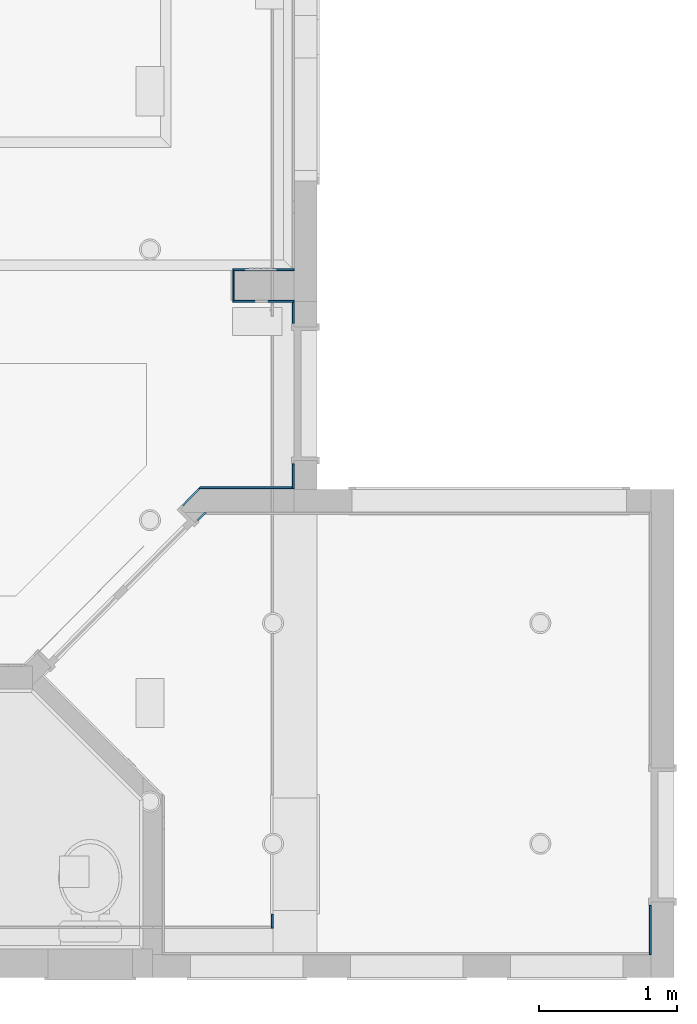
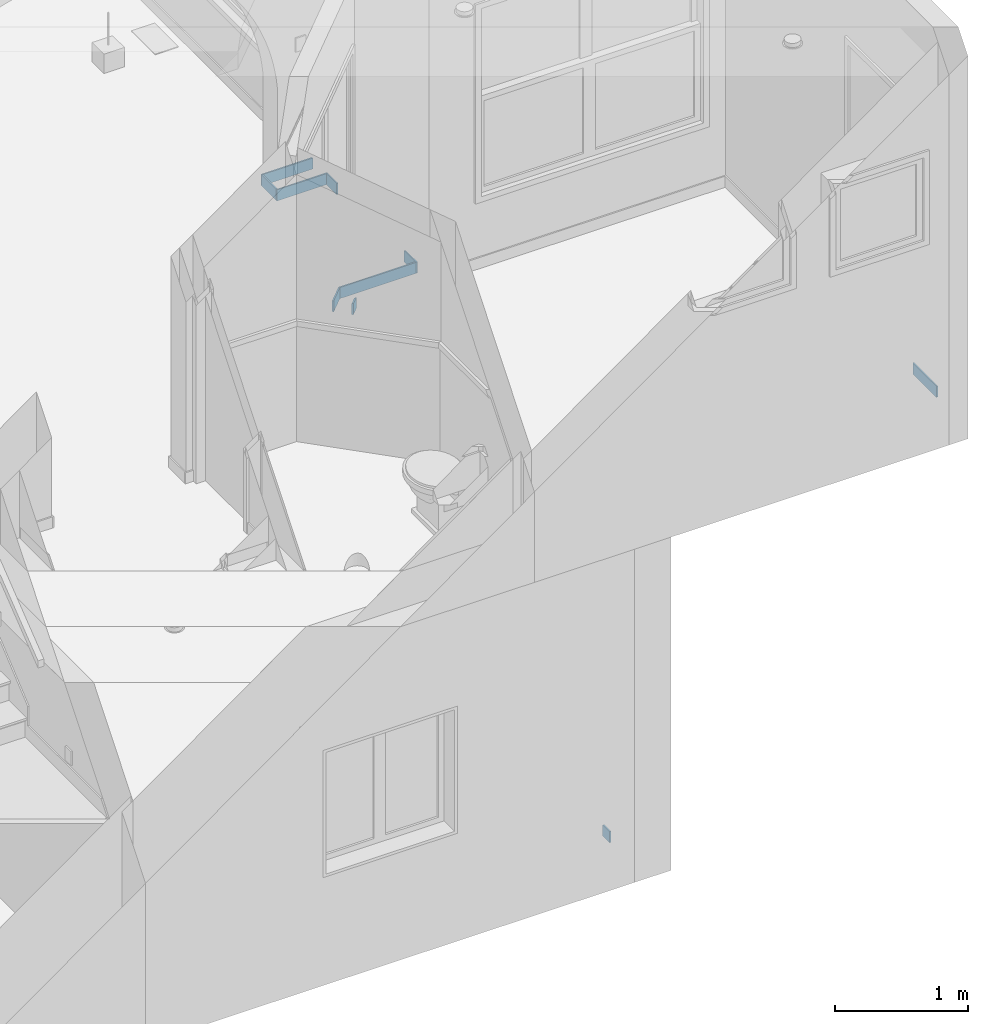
# One storey, part 27 of 60: 10 walls.
"""IFC2X3 building model written with IfcOpenShell, lengths in feet."""

import ifcopenshell
import ifcopenshell.guid

model = None  # the IFC model being written
_history = None  # IfcOwnerHistory: only IFC2X3 demands one
_inside = {}  # id of a spatial element -> (the spatial element, [elements in it])
_under = {}  # id of a project, library or spatial element -> (it, [spatial elements below it])
_declared = {}  # id of a project -> (the project, [libraries it declares])
_typed = {}  # id of a type object -> (the type object, [elements of that type])
_made_of = {}  # id of a material, layer set ... -> (it, [elements and type objects made of it])


def new_model(schema):
    """Start an empty IFC model of exactly this schema.

    Asked for "IFC4X3", IfcOpenShell would pick the latest addendum, in which some entities
    have other attributes; the version numbers below select the first issue.
    IFC2X3 requires an IfcOwnerHistory on every rooted entity: one is made here for all.
    """
    global model, _history
    if schema == "IFC4X3":
        model = ifcopenshell.file(schema_version=(4, 3, 0, 0))
    else:
        model = ifcopenshell.file(schema=schema)
    _inside.clear()
    _under.clear()
    _declared.clear()
    _typed.clear()
    _made_of.clear()
    _history = None
    if model.schema == "IFC2X3":
        org = make("IfcOrganization", Name="unknown")
        user = make(
            "IfcPersonAndOrganization",
            ThePerson=make("IfcPerson", FamilyName="unknown"),
            TheOrganization=org,
        )
        app = make(
            "IfcApplication",
            ApplicationDeveloper=org,
            Version="unknown",
            ApplicationFullName="unknown",
            ApplicationIdentifier="unknown",
        )
        _history = make(
            "IfcOwnerHistory",
            OwningUser=user,
            OwningApplication=app,
            ChangeAction="ADDED",
            CreationDate=0,
        )
    return model


def make(cls, **values):
    """One entity of the class cls with the attributes given. An attribute that is None is left unset."""
    return model.create_entity(
        cls, **{name: value for name, value in values.items() if value is not None}
    )


def entity(cls, *values):
    """Any entity or typed value of the class cls, its attributes in the order of the schema. None: left unset."""
    e = model.create_entity(cls)
    for i, value in enumerate(values):
        if value is not None:
            e[i] = value
    return e


def rooted(cls, **values):
    """An entity with a GlobalId (a new one), such as an element, a storey or a relation."""
    return make(cls, GlobalId=ifcopenshell.guid.new(), OwnerHistory=_history, **values)


def si_unit(unit_type, name, prefix=None):
    """IfcSIUnit, for example si_unit("LENGTHUNIT", "METRE", prefix="MILLI")."""
    return make("IfcSIUnit", UnitType=unit_type, Prefix=prefix, Name=name)


def converted_unit(unit_type, name, factor, base, dimensions=None, offset=None):
    """IfcConversionBasedUnit, such as the inch: factor (a typed value) times the base unit."""
    return make(
        "IfcConversionBasedUnit"
        if offset is None
        else "IfcConversionBasedUnitWithOffset",
        ConversionOffset=offset,
        Dimensions=None
        if dimensions is None
        else entity("IfcDimensionalExponents", *dimensions),
        UnitType=unit_type,
        Name=name,
        ConversionFactor=make(
            "IfcMeasureWithUnit", ValueComponent=factor, UnitComponent=base
        ),
    )


def assignment(units):
    """IfcUnitAssignment: the units of a project."""
    return None if units is None else make("IfcUnitAssignment", Units=units)


def point(xyz):
    """IfcCartesianPoint."""
    return None if xyz is None else make("IfcCartesianPoint", Coordinates=xyz)


def direction(xyz):
    """IfcDirection."""
    return None if xyz is None else make("IfcDirection", DirectionRatios=xyz)


def frame(location, z_axis=None, x_axis=None):
    """IfcAxis2Placement3D, a coordinate frame: its origin and axes. An axis left out is left unset."""
    return make(
        "IfcAxis2Placement3D",
        Location=point(location),
        Axis=direction(z_axis),
        RefDirection=direction(x_axis),
    )


def frame_2d(location, x_axis=None):
    """IfcAxis2Placement2D, a coordinate frame in the plane: its origin and x axis."""
    return make(
        "IfcAxis2Placement2D", Location=point(location), RefDirection=direction(x_axis)
    )


def origin():
    """The frame at (0, 0, 0) with its axes left unset."""
    return frame((0.0, 0.0, 0.0))


def place(relative_to, where):
    """IfcLocalPlacement: puts the frame where relative to a parent placement (None: the world)."""
    return make(
        "IfcLocalPlacement", PlacementRelTo=relative_to, RelativePlacement=where
    )


def context(
    kind, dimensions, precision=None, world=None, true_north=None, identifier=None
):
    """IfcGeometricRepresentationContext, for example the 3D "Model" context."""
    return make(
        "IfcGeometricRepresentationContext",
        ContextIdentifier=identifier,
        ContextType=kind,
        CoordinateSpaceDimension=dimensions,
        Precision=precision,
        WorldCoordinateSystem=world,
        TrueNorth=true_north,
    )


def subcontext(parent, identifier, kind, view, scale=None):
    """IfcGeometricRepresentationSubContext, for example "Body" below "Model"."""
    return make(
        "IfcGeometricRepresentationSubContext",
        ContextIdentifier=identifier,
        ContextType=kind,
        ParentContext=parent,
        TargetScale=scale,
        TargetView=view,
    )


def project(units=None, contexts=None):
    """IfcProject with its units and contexts."""
    return rooted(
        "IfcProject",
        Name="project",
        RepresentationContexts=contexts,
        UnitsInContext=assignment(units),
    )


def spatial(cls, under=None, at=None, **own):
    """A site, building, storey or space (cls), placed at a placement, below another one or the project."""
    s = rooted(cls, ObjectPlacement=at, **own)
    if under is not None:
        _under.setdefault(under.id(), (under, []))[1].append(s)
    return s


def polyline(points):
    """IfcPolyline through the points."""
    return make("IfcPolyline", Points=[point(p) for p in points])


def profile(cls, at=None, kind="AREA", **sizes):
    """A parametric profile (cls). Its sizes go by their IFC names, for example OverallWidth=200.0."""
    return make(cls, ProfileType=kind, Position=at, **sizes)


def rectangle(**sizes):
    """IfcRectangleProfileDef."""
    return profile("IfcRectangleProfileDef", **sizes)


def outline(outer, holes=None, kind="AREA"):
    """IfcArbitraryClosedProfileDef: a profile drawn as a closed curve; with holes, ...WithVoids."""
    if holes is None:
        return make("IfcArbitraryClosedProfileDef", ProfileType=kind, OuterCurve=outer)
    return make(
        "IfcArbitraryProfileDefWithVoids",
        ProfileType=kind,
        OuterCurve=outer,
        InnerCurves=holes,
    )


def extrude(swept, where, along, depth):
    """IfcExtrudedAreaSolid: the profile swept, set in the frame where, extruded along a direction by depth."""
    return make(
        "IfcExtrudedAreaSolid",
        SweptArea=swept,
        Position=where,
        ExtrudedDirection=direction(along),
        Depth=depth,
    )


def shape(context_of_items, identifier, shape_type, items):
    """IfcShapeRepresentation: the items that make up one representation, for example the "Body"."""
    return make(
        "IfcShapeRepresentation",
        ContextOfItems=context_of_items,
        RepresentationIdentifier=identifier,
        RepresentationType=shape_type,
        Items=items,
    )


def material(Name=None, Category=None):
    """IfcMaterial."""
    return make("IfcMaterial", Name=Name, Category=Category)


def layer(
    of_material, thickness, ventilated=None, Name=None, Category=None, Priority=None
):
    """IfcMaterialLayer: one layer of a wall or slab, of a material (None: an air gap)."""
    return make(
        "IfcMaterialLayer",
        Material=of_material,
        LayerThickness=thickness,
        IsVentilated=ventilated,
        Name=Name,
        Category=Category,
        Priority=Priority,
    )


def layer_set(layers, Name=None):
    """IfcMaterialLayerSet."""
    return make("IfcMaterialLayerSet", MaterialLayers=layers, LayerSetName=Name)


def layer_usage(for_layer_set, set_direction, sense, offset, extent=None):
    """IfcMaterialLayerSetUsage: how a layer set lies in its element."""
    return make(
        "IfcMaterialLayerSetUsage",
        ForLayerSet=for_layer_set,
        LayerSetDirection=set_direction,
        DirectionSense=sense,
        OffsetFromReferenceLine=offset,
        ReferenceExtent=extent,
    )


def made_of(thing, what):
    """Note that an element or type object is made of a material, layer set ...; save() writes the relation."""
    if what is not None:
        _made_of.setdefault(what.id(), (what, []))[1].append(thing)
    return thing


def type_object(cls, material=None, **own):
    """A type object (cls), such as IfcWallType, which elements share."""
    return made_of(rooted(cls, **own), material)


def element(
    cls,
    number,
    at=None,
    inside=None,
    cuts=None,
    type_object=None,
    material=None,
    context=None,
    identifier="Body",
    shape_type=None,
    held_by="IfcProductDefinitionShape",
    body=None,
    shapes=None,
    **own,
):
    """One element of the class cls, such as IfcWall. Its Tag is "e" and its number.

    at: its placement. inside: the storey or other place that contains it. cuts: it is an
    opening in that element (IfcRelVoidsElement). A single representation is given by context,
    identifier, shape_type and body (its items); several are given by shapes. held_by: the class
    of the entity that holds the representations. save() writes the other relations.
    """
    e = rooted(cls, Tag="e%d" % number, ObjectPlacement=at, **own)
    if body is not None:
        shapes = [shape(context, identifier, shape_type, body)]
    if shapes is not None:
        e.Representation = make(held_by, Representations=shapes)
    if inside is not None:
        _inside.setdefault(inside.id(), (inside, []))[1].append(e)
    if cuts is not None:
        rooted(
            "IfcRelVoidsElement", RelatingBuildingElement=cuts, RelatedOpeningElement=e
        )
    if type_object is not None:
        _typed.setdefault(type_object.id(), (type_object, []))[1].append(e)
    return made_of(e, material)


def aggregate(whole, parts):
    """IfcRelAggregates: a whole, such as a stair, and the parts it consists of."""
    return rooted("IfcRelAggregates", RelatingObject=whole, RelatedObjects=parts)


def save(model, path):
    """Write the relations noted so far, then the file.

    IfcRelAggregates (storeys below a building ...), IfcRelContainedInSpatialStructure (elements
    in a storey), IfcRelDefinesByType, IfcRelAssociatesMaterial and IfcRelDeclares: one each for
    every whole, place, type object, material and project.
    """
    for whole, parts in _under.values():
        aggregate(whole, parts)
    for where, things in _inside.values():
        rooted(
            "IfcRelContainedInSpatialStructure",
            RelatedElements=things,
            RelatingStructure=where,
        )
    for kind, things in _typed.values():
        rooted("IfcRelDefinesByType", RelatedObjects=things, RelatingType=kind)
    for what, things in _made_of.values():
        rooted("IfcRelAssociatesMaterial", RelatedObjects=things, RelatingMaterial=what)
    for by, libraries in _declared.values():
        rooted("IfcRelDeclares", RelatingContext=by, RelatedDefinitions=libraries)
    model.write(path)


model = new_model("IFC2X3")

# Units and contexts
model_context = context("Model", 3, precision=0.0001, world=origin(), true_north=direction((6.123031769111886e-17, 1.0)))
plan_context = context("Plan", 3, precision=0.0001, world=origin(), true_north=direction((6.123031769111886e-17, 1.0)))
body_context = subcontext(model_context, "Body", "Model", "MODEL_VIEW")
ifc_project = project(units=[converted_unit("LENGTHUNIT", "FOOT", entity("IfcLengthMeasure", 0.3048), si_unit("LENGTHUNIT", "METRE"), dimensions=[1, 0, 0, 0, 0, 0, 0]), converted_unit("AREAUNIT", "SQUARE FOOT", entity("IfcAreaMeasure", 0.09290304), si_unit("AREAUNIT", "SQUARE_METRE"), dimensions=[2, 0, 0, 0, 0, 0, 0]), converted_unit("PLANEANGLEUNIT", "DEGREE", entity("IfcPlaneAngleMeasure", 0.017453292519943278), si_unit("PLANEANGLEUNIT", "RADIAN"), dimensions=[0, 0, 0, 0, 0, 0, 0])], contexts=[model_context, plan_context])

# Site, building, storey
site_placement = place(None, origin())
site = spatial("IfcSite", under=ifc_project, at=site_placement, Name="Default", CompositionType="ELEMENT")
building_placement = place(site_placement, origin())
building = spatial("IfcBuilding", under=site, at=building_placement, CompositionType="ELEMENT")
storey_placement = place(building_placement, origin())
storey = spatial("IfcBuildingStorey", under=building, at=storey_placement, Name="First floor", CompositionType="ELEMENT", Elevation=0.0)

# Walls
ifc_material = material(Name="Default New Material")
ifc_layer = layer(ifc_material, 0.041666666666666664)
ifc_layer_set = layer_set([ifc_layer], Name="Basic Wall:Wall Border_T1")
ifc_layer_usage_1 = layer_usage(ifc_layer_set, "AXIS2", "POSITIVE", -0.020833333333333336)
wall_type = type_object("IfcWallType", Name="Basic Wall:Wall Border_T1", PredefinedType="STANDARD", material=ifc_layer_set)
wall_1_placement = place(storey_placement, frame((34.6041666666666, 1.5000000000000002, 0.0), z_axis=(0.0, 0.0, 1.0), x_axis=(0.0, -1.0, 0.0)))
element("IfcWallStandardCase", 1, at=wall_1_placement, inside=storey, type_object=wall_type, material=ifc_layer_usage_1, Name="Basic Wall:Wall Border_T1", ObjectType="Basic Wall:Wall Border_T1", context=body_context, shape_type="SweptSolid", body=[
    extrude(rectangle(XDim=0.33333333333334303, YDim=0.041666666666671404, at=frame_2d((0.16666666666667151, 0.0), x_axis=(-1.0, 0.0))), origin(), (0.0, 0.0, 1.0), 0.3333333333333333),
])
ifc_layer_usage_2 = layer_usage(ifc_layer_set, "AXIS2", "POSITIVE", -0.020833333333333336)
wall_2_placement = place(storey_placement, frame((35.12500000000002, 16.77083367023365, 10.666666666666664), z_axis=(0.0, 0.0, 1.0), x_axis=(-1.0, 0.0, 0.0)))
element("IfcWallStandardCase", 2, at=wall_2_placement, inside=storey, type_object=wall_type, material=ifc_layer_usage_2, Name="Basic Wall:Wall Border_T1", ObjectType="Basic Wall:Wall Border_T1", context=body_context, shape_type="SweptSolid", body=[
    extrude(rectangle(XDim=1.4578320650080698, YDim=0.0416666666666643, at=frame_2d((0.7289160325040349, 5.551115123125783e-17), x_axis=(-1.0, 0.0))), origin(), (0.0, 0.0, 1.0), 0.3333333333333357),
])
ifc_layer_usage_3 = layer_usage(ifc_layer_set, "AXIS2", "POSITIVE", -0.020833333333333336)
wall_3_placement = place(storey_placement, frame((33.66716793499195, 16.020833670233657, 10.666666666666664)))
element("IfcWallStandardCase", 3, at=wall_3_placement, inside=storey, type_object=wall_type, material=ifc_layer_usage_3, Name="Basic Wall:Wall Border_T1", ObjectType="Basic Wall:Wall Border_T1", context=body_context, shape_type="SweptSolid", body=[
    extrude(rectangle(XDim=1.4578320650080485, YDim=0.0416666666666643, at=frame_2d((0.7289160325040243, 0.0), x_axis=(-1.0, 0.0))), origin(), (0.0, 0.0, 1.0), 0.3333333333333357),
])
ifc_layer_usage_4 = layer_usage(ifc_layer_set, "AXIS2", "POSITIVE", -0.020833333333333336)
wall_4_placement = place(storey_placement, frame((35.104166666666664, 16.000000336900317, 10.666666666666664), z_axis=(0.0, 0.0, 1.0), x_axis=(0.0, -1.0, 0.0)))
element("IfcWallStandardCase", 4, at=wall_4_placement, inside=storey, type_object=wall_type, material=ifc_layer_usage_4, Name="Basic Wall:Wall Border_T1", ObjectType="Basic Wall:Wall Border_T1", context=body_context, shape_type="SweptSolid", body=[
    extrude(rectangle(XDim=0.5000003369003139, YDim=0.041666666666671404, at=frame_2d((0.25000016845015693, 0.0), x_axis=(-1.0, 0.0))), origin(), (0.0, 0.0, 1.0), 0.3333333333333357),
])
ifc_layer_usage_5 = layer_usage(ifc_layer_set, "AXIS2", "POSITIVE", -0.020833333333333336)
wall_5_placement = place(storey_placement, frame((35.10416666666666, 12.16666666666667, 10.666666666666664), z_axis=(0.0, 0.0, 1.0), x_axis=(0.0, -1.0, 0.0)))
element("IfcWallStandardCase", 5, at=wall_5_placement, inside=storey, type_object=wall_type, material=ifc_layer_usage_5, Name="Basic Wall:Wall Border_T1", ObjectType="Basic Wall:Wall Border_T1", context=body_context, shape_type="SweptSolid", body=[
    extrude(rectangle(XDim=0.5833333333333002, YDim=0.041666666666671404, at=frame_2d((0.2916666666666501, 0.0), x_axis=(-1.0, 0.0))), origin(), (0.0, 0.0, 1.0), 0.3333333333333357),
])
ifc_layer_usage_6 = layer_usage(ifc_layer_set, "AXIS2", "POSITIVE", -0.020833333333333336)
wall_6_placement = place(storey_placement, frame((35.08333333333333, 11.604166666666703, 10.666666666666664), z_axis=(0.0, 0.0, 1.0), x_axis=(-1.0, 0.0, 0.0)))
element("IfcWallStandardCase", 6, at=wall_6_placement, inside=storey, type_object=wall_type, material=ifc_layer_usage_6, Name="Basic Wall:Wall Border_T1", ObjectType="Basic Wall:Wall Border_T1", context=body_context, shape_type="SweptSolid", body=[
    extrude(outline(polyline([(2.187705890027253, -0.020833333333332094), (2.2291348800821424, 0.020833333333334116), (2.1703771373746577, 0.020833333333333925), (0.0, 0.020833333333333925), (0.0, -0.02083333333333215), (2.187705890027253, -0.020833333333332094)])), origin(), (0.0, 0.0, 1.0), 0.3333333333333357),
])
ifc_layer_usage_7 = layer_usage(ifc_layer_set, "AXIS2", "POSITIVE", -0.020833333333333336)
wall_7_placement = place(storey_placement, frame((32.89818272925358, 11.598022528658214, 10.666666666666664), z_axis=(0.0, 0.0, 1.0), x_axis=(-0.7050813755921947, -0.7091264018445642, 0.0)))
element("IfcWallStandardCase", 7, at=wall_7_placement, inside=storey, type_object=wall_type, material=ifc_layer_usage_7, Name="Basic Wall:Wall Border_T1", ObjectType="Basic Wall:Wall Border_T1", context=body_context, shape_type="SweptSolid", body=[
    extrude(outline(polyline([(0.5876244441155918, -0.02083333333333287), (0.5876244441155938, 0.02083333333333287), (0.0, 0.020833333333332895), (0.04142899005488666, -0.02083333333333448), (0.5876244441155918, -0.02083333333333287)])), origin(), (0.0, 0.0, 1.0), 0.3333333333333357),
])
ifc_layer_usage_8 = layer_usage(ifc_layer_set, "AXIS2", "POSITIVE", -0.020833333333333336)
wall_8_placement = place(storey_placement, frame((32.83850312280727, 10.828862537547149, 10.666666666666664), z_axis=(0.0, 0.0, 1.0), x_axis=(0.7050813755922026, 0.7091264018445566, 0.0)))
element("IfcWallStandardCase", 8, at=wall_8_placement, inside=storey, type_object=wall_type, material=ifc_layer_usage_8, Name="Basic Wall:Wall Border_T1", ObjectType="Basic Wall:Wall Border_T1", context=body_context, shape_type="SweptSolid", body=[
    extrude(outline(polyline([(0.2914289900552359, -0.020833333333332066), (0.25000000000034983, 0.02083333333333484), (0.0, 0.020833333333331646), (0.0, -0.0208333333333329), (0.23267124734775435, -0.02083333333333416), (0.2914289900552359, -0.020833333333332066)])), origin(), (0.0, 0.0, 1.0), 0.3333333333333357),
])
ifc_layer_usage_9 = layer_usage(ifc_layer_set, "AXIS2", "POSITIVE", -0.020833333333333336)
wall_9_placement = place(storey_placement, frame((43.5625, 1.7083333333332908, 10.666666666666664), z_axis=(0.0, 0.0, 1.0), x_axis=(0.0, -1.0, 0.0)))
element("IfcWallStandardCase", 9, at=wall_9_placement, inside=storey, type_object=wall_type, material=ifc_layer_usage_9, Name="Basic Wall:Wall Border_T1", ObjectType="Basic Wall:Wall Border_T1", context=body_context, shape_type="SweptSolid", body=[
    extrude(rectangle(XDim=1.166666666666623, YDim=0.041666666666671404, at=frame_2d((0.5833333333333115, 0.0), x_axis=(-1.0, 0.0))), origin(), (0.0, 0.0, 1.0), 0.3333333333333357),
])
ifc_layer_usage_10 = layer_usage(ifc_layer_set, "AXIS2", "NEGATIVE", 0.020833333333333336)
wall_10_placement = place(storey_placement, frame((33.68800126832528, 16.75000033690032, 10.666666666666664), z_axis=(0.0, 0.0, 1.0), x_axis=(0.0, -1.0, 0.0)))
element("IfcWallStandardCase", 10, at=wall_10_placement, inside=storey, type_object=wall_type, material=ifc_layer_usage_10, Name="Basic Wall:Wall Border_T1", ObjectType="Basic Wall:Wall Border_T1", context=body_context, shape_type="SweptSolid", body=[
    extrude(rectangle(XDim=0.7083333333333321, YDim=0.041666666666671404, at=frame_2d((0.3541666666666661, 1.5092094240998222e-15), x_axis=(-1.0, 0.0))), origin(), (0.0, 0.0, 1.0), 0.3333333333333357),
])

save(model, "model.ifc")
